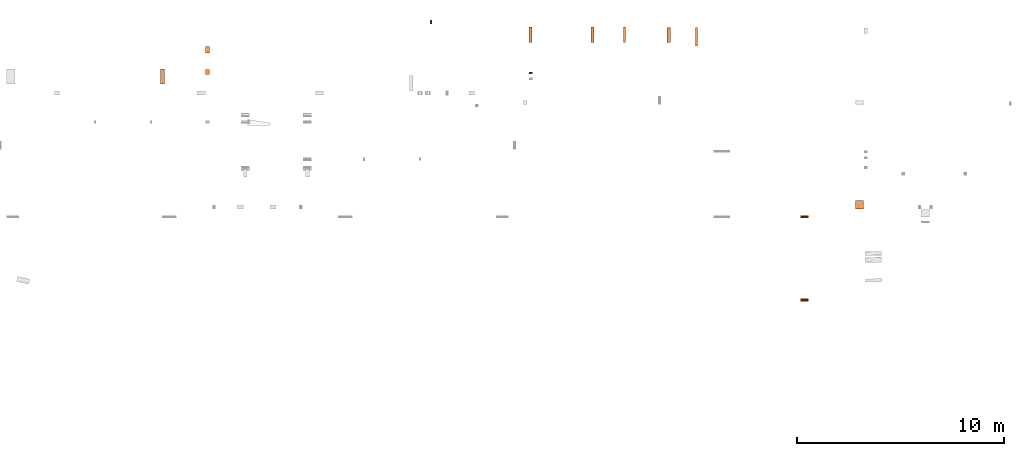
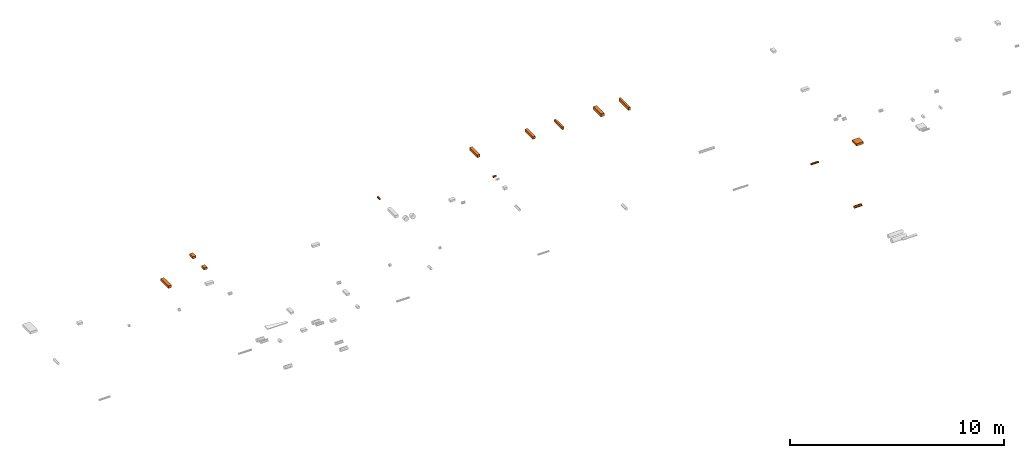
# One storey, part 5 of 7: 13 proxies.
"""IFC2X3 building model written with IfcOpenShell, lengths in centimetres."""

from ifc_helpers import new_model, entity, si_unit, converted_unit, derived_unit, direction, frame, frame_2d, origin, origin_2d_with_axis, place, context, subcontext, project, spatial, rectangle, circle, extrude, source, transform, mapped, material, type_object, type_shapes, element, save


model = new_model("IFC2X3")

# Units and contexts
model_context = context("Model", 3, precision=0.001, world=origin(), true_north=direction((6.12303176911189e-17, 1.0)))
body_context = subcontext(model_context, "Body", "Model", "MODEL_VIEW")
ifc_project = project(units=[si_unit("LENGTHUNIT", "METRE", prefix="CENTI"), si_unit("AREAUNIT", "SQUARE_METRE"), si_unit("VOLUMEUNIT", "CUBIC_METRE"), converted_unit("PLANEANGLEUNIT", "DEGREE", entity("IfcRatioMeasure", 0.0174532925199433), si_unit("PLANEANGLEUNIT", "RADIAN"), dimensions=[0, 0, 0, 0, 0, 0, 0]), si_unit("MASSUNIT", "GRAM", prefix="KILO"), derived_unit("MASSDENSITYUNIT", [(si_unit("MASSUNIT", "GRAM", prefix="KILO"), 1), (si_unit("LENGTHUNIT", "METRE"), -3)]), si_unit("TIMEUNIT", "SECOND"), si_unit("FREQUENCYUNIT", "HERTZ"), si_unit("THERMODYNAMICTEMPERATUREUNIT", "DEGREE_CELSIUS"), derived_unit("THERMALTRANSMITTANCEUNIT", [(si_unit("MASSUNIT", "GRAM", prefix="KILO"), 1), (si_unit("THERMODYNAMICTEMPERATUREUNIT", "KELVIN"), -1), (si_unit("TIMEUNIT", "SECOND"), -3)]), derived_unit("VOLUMETRICFLOWRATEUNIT", [(si_unit("LENGTHUNIT", "METRE"), 3), (si_unit("TIMEUNIT", "SECOND"), -1)]), si_unit("ELECTRICCURRENTUNIT", "AMPERE"), si_unit("ELECTRICVOLTAGEUNIT", "VOLT"), si_unit("POWERUNIT", "WATT"), si_unit("FORCEUNIT", "NEWTON"), si_unit("ILLUMINANCEUNIT", "LUX"), si_unit("LUMINOUSFLUXUNIT", "LUMEN"), si_unit("LUMINOUSINTENSITYUNIT", "CANDELA"), derived_unit("USERDEFINED", [(si_unit("MASSUNIT", "GRAM", prefix="KILO"), -1), (si_unit("LENGTHUNIT", "METRE"), -2), (si_unit("TIMEUNIT", "SECOND"), 3), (si_unit("LUMINOUSFLUXUNIT", "LUMEN"), 1)]), derived_unit("LINEARVELOCITYUNIT", [(si_unit("LENGTHUNIT", "METRE"), 1), (si_unit("TIMEUNIT", "SECOND"), -1)]), si_unit("PRESSUREUNIT", "PASCAL"), derived_unit("USERDEFINED", [(si_unit("LENGTHUNIT", "METRE"), -2), (si_unit("MASSUNIT", "GRAM", prefix="KILO"), 1), (si_unit("TIMEUNIT", "SECOND"), -2)])], contexts=[model_context])

# Site, building, storey
site_placement = place(None, origin())
site = spatial("IfcSite", under=ifc_project, at=site_placement, Name="Default", CompositionType="ELEMENT")
building_placement = place(site_placement, origin())
building = spatial("IfcBuilding", under=site, at=building_placement, Name="CAGE 03", CompositionType="ELEMENT")
storey_placement = place(building_placement, origin())
storey = spatial("IfcBuildingStorey", under=building, at=storey_placement, Name="RDC", CompositionType="ELEMENT", Elevation=-1.08286712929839e-13)

# Proxies
ifc_material = material(Name="Verre")
building_element_proxy_type_1 = type_object("IfcBuildingElementProxyType", Name="Standard", PredefinedType="NOTDEFINED", material=ifc_material)
shared_shape_1 = source(origin(), body_context, "Body", "SweptSolid", [
    extrude(rectangle(XDim=18.0000000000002, YDim=72.0, at=origin_2d_with_axis()), frame((0.0, 0.0, -7.0), z_axis=(0.0, 0.0, 1.0), x_axis=(0.0, 1.0, 0.0)), (0.0, 0.0, 1.0), 14.0),
])
type_shapes(building_element_proxy_type_1, [shared_shape_1])
proxy_1_placement = place(storey_placement, frame((6622.36582014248, 5020.7348830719, 267.08), z_axis=(0.0, 0.0, 1.0), x_axis=(0.0, 1.0, 0.0)))
element("IfcBuildingElementProxy", 1, at=proxy_1_placement, inside=storey, type_object=building_element_proxy_type_1, material=ifc_material, Name="RESERVATION RECT_MUR:Standard", ObjectType="Standard", context=body_context, shape_type="MappedRepresentation", body=[
    mapped(shared_shape_1, transform((0.0, 0.0, 0.0), scale=1.0)),
])
building_element_proxy_type_2 = type_object("IfcBuildingElementProxyType", Name="Standard", PredefinedType="NOTDEFINED", material=ifc_material)
shared_shape_2 = source(origin(), body_context, "Body", "SweptSolid", [
    extrude(rectangle(XDim=18.0000000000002, YDim=24.0246232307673, at=origin_2d_with_axis()), frame((0.0, 0.0, -6.0), z_axis=(0.0, 0.0, 1.0), x_axis=(0.0, 1.0, 0.0)), (0.0, 0.0, 1.0), 12.0),
])
type_shapes(building_element_proxy_type_2, [shared_shape_2])
proxy_2_placement = place(storey_placement, frame((6840.36582014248, 5041.44531653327, 267.076580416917), z_axis=(0.0, 0.0, 1.0), x_axis=(0.0, 1.0, 0.0)))
element("IfcBuildingElementProxy", 2, at=proxy_2_placement, inside=storey, type_object=building_element_proxy_type_2, material=ifc_material, Name="RESERVATION RECT_MUR:Standard", ObjectType="Standard", context=body_context, shape_type="MappedRepresentation", body=[
    mapped(shared_shape_2, transform((0.0, 0.0, 0.0), scale=1.0)),
])
building_element_proxy_type_3 = type_object("IfcBuildingElementProxyType", Name="Standard", PredefinedType="NOTDEFINED", material=ifc_material)
shared_shape_3 = source(origin(), body_context, "Body", "SweptSolid", [
    extrude(rectangle(XDim=18.0000000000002, YDim=30.0, at=origin_2d_with_axis()), frame((0.0, 0.0, -6.0), z_axis=(0.0, 0.0, 1.0), x_axis=(0.0, 1.0, 0.0)), (0.0, 0.0, 1.0), 12.0),
])
type_shapes(building_element_proxy_type_3, [shared_shape_3])
proxy_3_placement = place(storey_placement, frame((6840.36582014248, 5149.64887147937, 267.076580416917), z_axis=(0.0, 0.0, 1.0), x_axis=(0.0, 1.0, 0.0)))
element("IfcBuildingElementProxy", 3, at=proxy_3_placement, inside=storey, type_object=building_element_proxy_type_3, material=ifc_material, Name="RESERVATION RECT_MUR:Standard", ObjectType="Standard", context=body_context, shape_type="MappedRepresentation", body=[
    mapped(shared_shape_3, transform((0.0, 0.0, 0.0), scale=1.0)),
])
building_element_proxy_type_4 = type_object("IfcBuildingElementProxyType", Name="Standard", PredefinedType="NOTDEFINED", material=ifc_material)
shared_shape_4 = source(origin(), body_context, "Body", "SweptSolid", [
    extrude(rectangle(XDim=15.0000000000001, YDim=74.0, at=origin_2d_with_axis()), frame((0.0, 0.0, -7.0), z_axis=(0.0, 0.0, 1.0), x_axis=(0.0, 1.0, 0.0)), (0.0, 0.0, 1.0), 14.0),
])
type_shapes(building_element_proxy_type_4, [shared_shape_4])
for number, where, z_axis, x_axis, name in (
    (4, (8400.36582014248, 5222.48104581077, 267.089982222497), (0.0, 0.0, 1.0), (0.0, 1.0, 0.0), "RESERVATION RECT_MUR:Standard"),
    (5, (8698.86582014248, 5221.71325688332, 267.09), (0.0, 0.0, 1.0), (0.0, 1.0, 0.0), "RESERVATION RECT_MUR:Standard"),
):
    element("IfcBuildingElementProxy", number, at=place(storey_placement, frame(where, z_axis=z_axis, x_axis=x_axis)), inside=storey, type_object=building_element_proxy_type_4, material=ifc_material, Name=name, ObjectType="Standard", context=body_context, shape_type="MappedRepresentation", body=[
        mapped(shared_shape_4, transform((0.0, 0.0, 0.0), scale=1.0)),
    ])
building_element_proxy_type_5 = type_object("IfcBuildingElementProxyType", Name="Standard", PredefinedType="NOTDEFINED", material=ifc_material)
shared_shape_5 = source(origin(), body_context, "Body", "SweptSolid", [
    extrude(rectangle(XDim=9.99999999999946, YDim=73.9999999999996, at=frame_2d((0.0, -4.33431068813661e-13), x_axis=(1.0, 0.0))), frame((8853.36582014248, 5221.71325688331, 260.09), z_axis=(0.0, 0.0, 1.0), x_axis=(-1.0, 0.0, 0.0)), (0.0, 0.0, 1.0), 14.0),
])
type_shapes(building_element_proxy_type_5, [shared_shape_5])
proxy_4_placement = place(storey_placement, origin())
element("IfcBuildingElementProxy", 6, at=proxy_4_placement, inside=storey, type_object=building_element_proxy_type_5, material=ifc_material, Name="RESERVATION RECT_MUR:Standard", ObjectType="Standard", context=body_context, shape_type="MappedRepresentation", body=[
    mapped(shared_shape_5, transform((0.0, 0.0, 0.0), scale=1.0)),
])
building_element_proxy_type_6 = type_object("IfcBuildingElementProxyType", Name="Standard", PredefinedType="NOTDEFINED", material=ifc_material)
shared_shape_6 = source(origin(), body_context, "Body", "SweptSolid", [
    extrude(rectangle(XDim=17.9999999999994, YDim=73.0, at=origin_2d_with_axis()), frame((0.0, 0.0, -8.0), z_axis=(0.0, 0.0, 1.0), x_axis=(0.0, 1.0, 0.0)), (0.0, 0.0, 1.0), 16.0),
])
type_shapes(building_element_proxy_type_6, [shared_shape_6])
proxy_5_placement = place(storey_placement, frame((9067.36582014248, 5221.49465543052, 267.09), z_axis=(0.0, 0.0, 1.0), x_axis=(0.0, 1.0, 0.0)))
element("IfcBuildingElementProxy", 7, at=proxy_5_placement, inside=storey, type_object=building_element_proxy_type_6, material=ifc_material, Name="RESERVATION RECT_MUR:Standard", ObjectType="Standard", context=body_context, shape_type="MappedRepresentation", body=[
    mapped(shared_shape_6, transform((0.0, 0.0, 0.0), scale=1.0)),
])
building_element_proxy_type_7 = type_object("IfcBuildingElementProxyType", Name="Standard", PredefinedType="NOTDEFINED", material=ifc_material)
shared_shape_7 = source(origin(), body_context, "Body", "SweptSolid", [
    extrude(rectangle(XDim=9.99999999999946, YDim=91.0, at=origin_2d_with_axis()), frame((0.0, 0.0, -8.0), z_axis=(0.0, 0.0, 1.0), x_axis=(0.0, 1.0, 0.0)), (0.0, 0.0, 1.0), 16.0),
])
type_shapes(building_element_proxy_type_7, [shared_shape_7])
proxy_6_placement = place(storey_placement, frame((9201.36582014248, 5212.49465543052, 267.09), z_axis=(0.0, 0.0, 1.0), x_axis=(0.0, 1.0, 0.0)))
element("IfcBuildingElementProxy", 8, at=proxy_6_placement, inside=storey, type_object=building_element_proxy_type_7, material=ifc_material, Name="RESERVATION RECT_MUR:Standard", ObjectType="Standard", context=body_context, shape_type="MappedRepresentation", body=[
    mapped(shared_shape_7, transform((0.0, 0.0, 0.0), scale=1.0)),
])
building_element_proxy_type_8 = type_object("IfcBuildingElementProxyType", Name="Standard", PredefinedType="NOTDEFINED", material=ifc_material)
shared_shape_8 = source(origin(), body_context, "Body", "SweptSolid", [
    extrude(rectangle(XDim=39.9999999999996, YDim=38.0, at=origin_2d_with_axis()), frame((0.0, 0.0, -6.0), z_axis=(0.0, 0.0, 1.0), x_axis=(0.0, 1.0, 0.0)), (0.0, 0.0, 1.0), 12.0),
])
type_shapes(building_element_proxy_type_8, [shared_shape_8])
proxy_7_placement = place(storey_placement, frame((9988.56568592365, 4401.66066607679, 267.09), z_axis=(0.0, 0.0, 1.0), x_axis=(-1.0, 0.0, 0.0)))
element("IfcBuildingElementProxy", 9, at=proxy_7_placement, inside=storey, type_object=building_element_proxy_type_8, material=ifc_material, Name="RESERVATION RECT_MUR:Standard", ObjectType="Standard", context=body_context, shape_type="MappedRepresentation", body=[
    mapped(shared_shape_8, transform((0.0, 0.0, 0.0), scale=1.0)),
])
building_element_proxy_type_9 = type_object("IfcBuildingElementProxyType", Name="Standard", PredefinedType="NOTDEFINED", material=ifc_material)
shared_shape_9 = source(origin(), body_context, "Body", "SweptSolid", [
    extrude(circle(Radius=7.0, at=frame_2d((-3.48550551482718e-16, -3.1514871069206e-14), x_axis=(1.0, 0.0))), frame((0.0, -20.0, 0.0), z_axis=(0.0, 1.0, 0.0), x_axis=(1.0, 0.0, 0.0)), (0.0, 0.0, 1.0), 39.9999999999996),
])
type_shapes(building_element_proxy_type_9, [shared_shape_9])
proxy_8_placement = place(storey_placement, frame((9723.36582014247, 3941.66066607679, 274.683334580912), z_axis=(0.0, 0.0, 1.0), x_axis=(0.0, -1.0, 0.0)))
element("IfcBuildingElementProxy", 10, at=proxy_8_placement, inside=storey, type_object=building_element_proxy_type_9, material=ifc_material, Name="RESERVATION CIRC_MUR1:Standard", ObjectType="Standard", context=body_context, shape_type="MappedRepresentation", body=[
    mapped(shared_shape_9, transform((0.0, 0.0, 0.0), scale=1.0)),
])
building_element_proxy_type_10 = type_object("IfcBuildingElementProxyType", Name="Standard", PredefinedType="NOTDEFINED", material=ifc_material)
shared_shape_10 = source(origin(), body_context, "Body", "SweptSolid", [
    extrude(circle(Radius=4.0, at=frame_2d((-3.48550551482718e-16, -1.8008497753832e-14), x_axis=(1.0, 0.0))), frame((0.0, -7.50000000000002, 0.0), z_axis=(0.0, 1.0, 0.0), x_axis=(1.0, 0.0, 0.0)), (0.0, 0.0, 1.0), 15.0000000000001),
])
type_shapes(building_element_proxy_type_10, [shared_shape_10])
proxy_9_placement = place(storey_placement, frame((8400.36582014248, 5037.00662022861, 242.0), z_axis=(0.0, 0.0, 1.0), x_axis=(0.0, 1.0, 0.0)))
element("IfcBuildingElementProxy", 11, at=proxy_9_placement, inside=storey, type_object=building_element_proxy_type_10, material=ifc_material, Name="RESERVATION CIRC_MUR1:Standard", ObjectType="Standard", context=body_context, shape_type="MappedRepresentation", body=[
    mapped(shared_shape_10, transform((0.0, 0.0, 0.0), scale=1.0)),
])
building_element_proxy_type_11 = type_object("IfcBuildingElementProxyType", Name="Standard", PredefinedType="NOTDEFINED", material=ifc_material)
shared_shape_11 = source(origin(), body_context, "Body", "SweptSolid", [
    extrude(circle(Radius=4.0, at=origin_2d_with_axis()), frame((7919.70772543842, 5275.6606660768, 136.999461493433), z_axis=(0.0, 1.0, 0.0), x_axis=(-1.0, 0.0, 0.0)), (0.0, 0.0, 1.0), 17.9999999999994),
])
type_shapes(building_element_proxy_type_11, [shared_shape_11])
proxy_10_placement = place(storey_placement, origin())
element("IfcBuildingElementProxy", 12, at=proxy_10_placement, inside=storey, type_object=building_element_proxy_type_11, material=ifc_material, Name="RESERVATION CIRC_MUR1:Standard", ObjectType="Standard", context=body_context, shape_type="MappedRepresentation", body=[
    mapped(shared_shape_11, transform((0.0, 0.0, 0.0), scale=1.0)),
])
building_element_proxy_type_12 = type_object("IfcBuildingElementProxyType", Name="Standard", PredefinedType="NOTDEFINED", material=ifc_material)
shared_shape_12 = source(origin(), body_context, "Body", "SweptSolid", [
    extrude(circle(Radius=5.0, at=origin_2d_with_axis()), frame((9703.36582014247, 4343.66066607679, 275.0), z_axis=(1.0, 0.0, 0.0), x_axis=(0.0, -1.0, 0.0)), (0.0, 0.0, 1.0), 40.0000000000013),
])
type_shapes(building_element_proxy_type_12, [shared_shape_12])
proxy_11_placement = place(storey_placement, origin())
element("IfcBuildingElementProxy", 13, at=proxy_11_placement, inside=storey, type_object=building_element_proxy_type_12, material=ifc_material, Name="RESERVATION CIRC_MUR:Standard", ObjectType="Standard", context=body_context, shape_type="MappedRepresentation", body=[
    mapped(shared_shape_12, transform((0.0, 0.0, 0.0), scale=1.0)),
])

save(model, "model.ifc")
